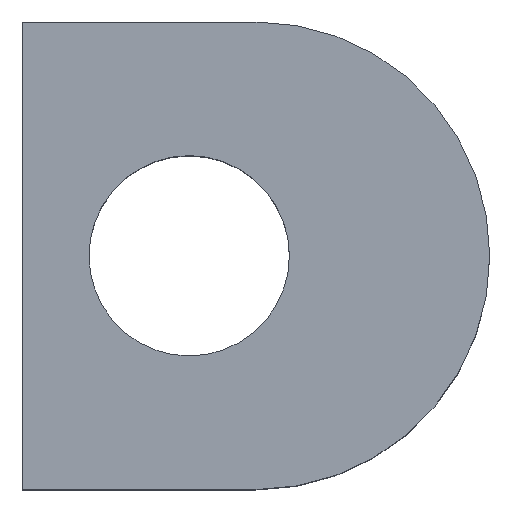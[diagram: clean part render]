
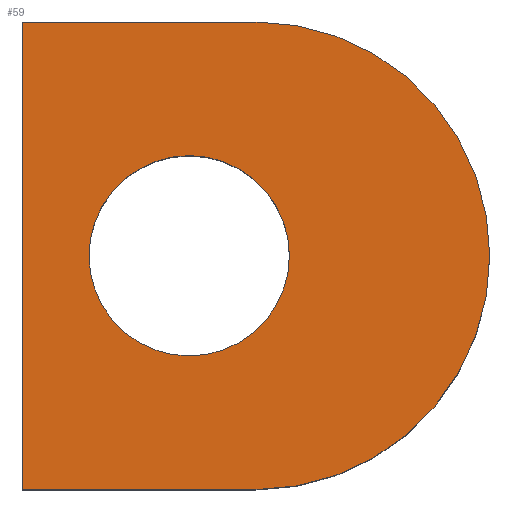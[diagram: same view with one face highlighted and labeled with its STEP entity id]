
A CAD part, top view. The second image highlights one B-rep face of the part: STEP entity #59.
In plain terms, the highlighted planar face has unit normal (0, 0, 1).
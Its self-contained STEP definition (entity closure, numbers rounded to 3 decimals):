
#59=ADVANCED_FACE('',(#79,#80),#81,.F.);
#79=FACE_BOUND('',#100,.T.);
#80=FACE_OUTER_BOUND('',#101,.T.);
#81=PLANE('',#102);
#100=EDGE_LOOP('',(#163,#164));
#101=EDGE_LOOP('',(#165,#166,#167,#168,#169));
#102=AXIS2_PLACEMENT_3D('',#170,#171,#172);
#163=ORIENTED_EDGE('',*,*,#183,.F.);
#164=ORIENTED_EDGE('',*,*,#179,.F.);
#165=ORIENTED_EDGE('',*,*,#184,.T.);
#166=ORIENTED_EDGE('',*,*,#177,.T.);
#167=ORIENTED_EDGE('',*,*,#187,.T.);
#168=ORIENTED_EDGE('',*,*,#190,.T.);
#169=ORIENTED_EDGE('',*,*,#193,.T.);
#170=CARTESIAN_POINT('',(5.913,0.,5.998));
#171=DIRECTION('',(0.,0.,-1.0));
#172=DIRECTION('',(-1.0,0.,0.));
#177=EDGE_CURVE('',#196,#200,#202,.T.);
#179=EDGE_CURVE('',#203,#206,#207,.T.);
#183=EDGE_CURVE('',#206,#203,#212,.T.);
#184=EDGE_CURVE('',#213,#196,#214,.T.);
#187=EDGE_CURVE('',#200,#218,#219,.T.);
#190=EDGE_CURVE('',#218,#223,#224,.T.);
#193=EDGE_CURVE('',#223,#213,#228,.T.);
#196=VERTEX_POINT('',#231);
#200=VERTEX_POINT('',#236);
#202=CIRCLE('',#239,3.5);
#203=VERTEX_POINT('',#240);
#206=VERTEX_POINT('',#244);
#207=CIRCLE('',#245,1.5);
#212=CIRCLE('',#251,1.5);
#213=VERTEX_POINT('',#252);
#214=CIRCLE('',#253,3.5);
#218=VERTEX_POINT('',#258);
#219=LINE('',#259,#260);
#223=VERTEX_POINT('',#266);
#224=LINE('',#267,#268);
#228=LINE('',#274,#275);
#231=CARTESIAN_POINT('',(10.,0.,5.998));
#236=CARTESIAN_POINT('',(6.499,3.5,5.998));
#239=AXIS2_PLACEMENT_3D('',#283,#284,#285);
#240=CARTESIAN_POINT('',(3.999,0.,5.998));
#244=CARTESIAN_POINT('',(6.999,0.,5.998));
#245=AXIS2_PLACEMENT_3D('',#287,#288,#289);
#251=AXIS2_PLACEMENT_3D('',#297,#298,#299);
#252=CARTESIAN_POINT('',(6.499,-3.5,5.998));
#253=AXIS2_PLACEMENT_3D('',#300,#301,#302);
#258=CARTESIAN_POINT('',(2.999,3.5,5.998));
#259=CARTESIAN_POINT('',(2.999,3.5,5.998));
#260=VECTOR('',#307,1.0);
#266=CARTESIAN_POINT('',(2.999,-3.5,5.998));
#267=CARTESIAN_POINT('',(2.999,-3.5,5.998));
#268=VECTOR('',#310,1.0);
#274=CARTESIAN_POINT('',(6.499,-3.5,5.998));
#275=VECTOR('',#313,1.0);
#283=CARTESIAN_POINT('',(6.5,0.,5.998));
#284=DIRECTION('',(0.,0.,1.0));
#285=DIRECTION('',(1.0,0.,0.));
#287=CARTESIAN_POINT('',(5.499,0.,5.998));
#288=DIRECTION('',(0.,0.,1.0));
#289=DIRECTION('',(-1.0,0.,0.));
#297=CARTESIAN_POINT('',(5.499,0.,5.998));
#298=DIRECTION('',(0.,0.,1.0));
#299=DIRECTION('',(-1.0,0.,0.));
#300=CARTESIAN_POINT('',(6.5,0.,5.998));
#301=DIRECTION('',(0.,0.,1.0));
#302=DIRECTION('',(1.0,0.,0.));
#307=DIRECTION('',(-1.0,0.,0.));
#310=DIRECTION('',(0.,-1.0,0.));
#313=DIRECTION('',(1.0,0.,0.));
